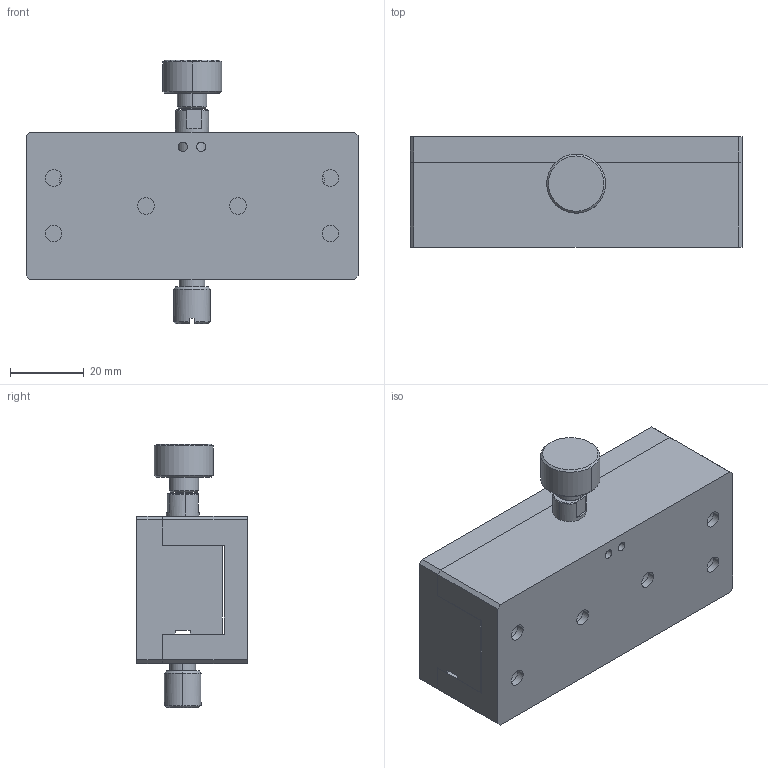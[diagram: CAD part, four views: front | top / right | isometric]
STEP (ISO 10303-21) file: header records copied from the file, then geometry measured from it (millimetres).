
FILE_DESCRIPTION (( 'STEP AP203' ), '1' );
FILE_NAME ('BKRG90.STEP', '2024-03-04T02:22:35', ( 'China' ), ( 'Microsoft' ), 'SwSTEP 2.0', 'SolidWorks 2024', '' );
FILE_SCHEMA (( 'CONFIG_CONTROL_DESIGN' ));
Products named in the file (1): BKRG90
Bounding box: 90 x 30 x 71.5 mm (x, y, z)
Volume: 99348.6 mm3; surface area: 36088.8 mm2
Topology: 7 solids, 7 shells, 463 faces, 1241 edges, 796 vertices
Faces by surface type: plane 240, cylinder 117, cone 69, bspline 37
Entity records: 101784 total; most frequent: CARTESIAN_POINT 90548, ORIENTED_EDGE 2438, DIRECTION 2158, EDGE_CURVE 1219, VERTEX_POINT 796, VECTOR 788, LINE 788, AXIS2_PLACEMENT_3D 685
